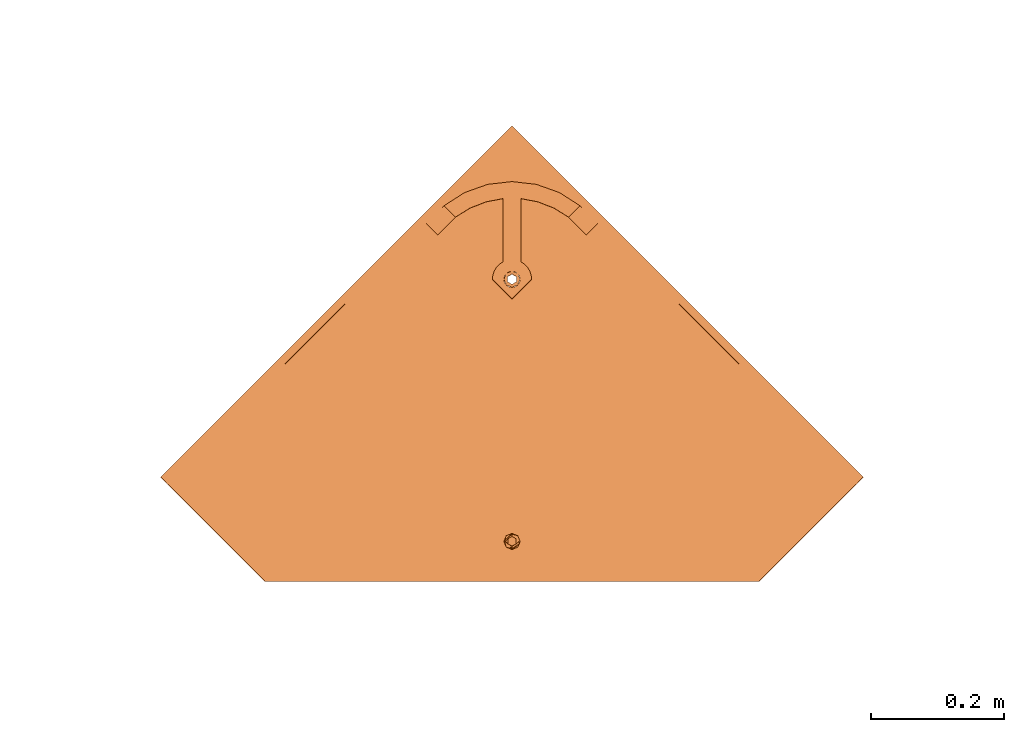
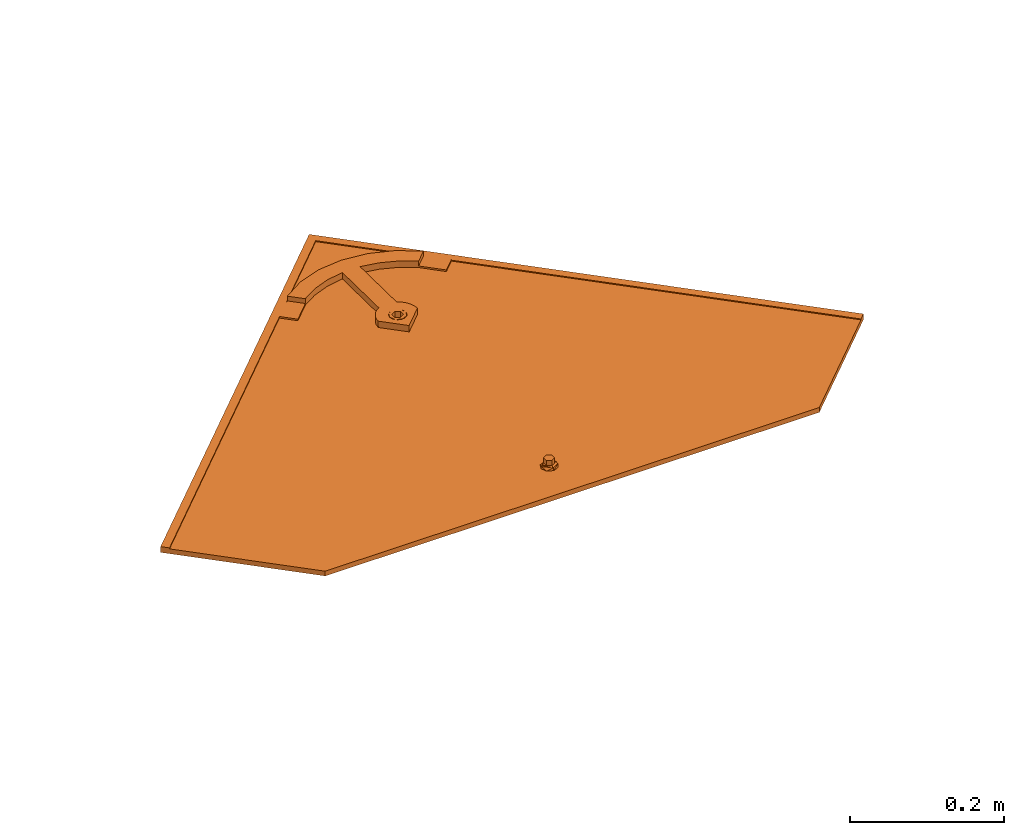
# One storey, part 98 of 151: 1 proxy.
"""IFC2X3 building model written with IfcOpenShell, lengths in millimetres."""

import ifcopenshell
import ifcopenshell.guid

model = None  # the IFC model being written
_history = None  # IfcOwnerHistory: only IFC2X3 demands one
_inside = {}  # id of a spatial element -> (the spatial element, [elements in it])
_under = {}  # id of a project, library or spatial element -> (it, [spatial elements below it])
_declared = {}  # id of a project -> (the project, [libraries it declares])
_typed = {}  # id of a type object -> (the type object, [elements of that type])
_made_of = {}  # id of a material, layer set ... -> (it, [elements and type objects made of it])


def new_model(schema):
    """Start an empty IFC model of exactly this schema.

    Asked for "IFC4X3", IfcOpenShell would pick the latest addendum, in which some entities
    have other attributes; the version numbers below select the first issue.
    IFC2X3 requires an IfcOwnerHistory on every rooted entity: one is made here for all.
    """
    global model, _history
    if schema == "IFC4X3":
        model = ifcopenshell.file(schema_version=(4, 3, 0, 0))
    else:
        model = ifcopenshell.file(schema=schema)
    _inside.clear()
    _under.clear()
    _declared.clear()
    _typed.clear()
    _made_of.clear()
    _history = None
    if model.schema == "IFC2X3":
        org = make("IfcOrganization", Name="unknown")
        user = make(
            "IfcPersonAndOrganization",
            ThePerson=make("IfcPerson", FamilyName="unknown"),
            TheOrganization=org,
        )
        app = make(
            "IfcApplication",
            ApplicationDeveloper=org,
            Version="unknown",
            ApplicationFullName="unknown",
            ApplicationIdentifier="unknown",
        )
        _history = make(
            "IfcOwnerHistory",
            OwningUser=user,
            OwningApplication=app,
            ChangeAction="ADDED",
            CreationDate=0,
        )
    return model


def make(cls, **values):
    """One entity of the class cls with the attributes given. An attribute that is None is left unset."""
    return model.create_entity(
        cls, **{name: value for name, value in values.items() if value is not None}
    )


def entity(cls, *values):
    """Any entity or typed value of the class cls, its attributes in the order of the schema. None: left unset."""
    e = model.create_entity(cls)
    for i, value in enumerate(values):
        if value is not None:
            e[i] = value
    return e


def rooted(cls, **values):
    """An entity with a GlobalId (a new one), such as an element, a storey or a relation."""
    return make(cls, GlobalId=ifcopenshell.guid.new(), OwnerHistory=_history, **values)


def si_unit(unit_type, name, prefix=None):
    """IfcSIUnit, for example si_unit("LENGTHUNIT", "METRE", prefix="MILLI")."""
    return make("IfcSIUnit", UnitType=unit_type, Prefix=prefix, Name=name)


def converted_unit(unit_type, name, factor, base, dimensions=None, offset=None):
    """IfcConversionBasedUnit, such as the inch: factor (a typed value) times the base unit."""
    return make(
        "IfcConversionBasedUnit"
        if offset is None
        else "IfcConversionBasedUnitWithOffset",
        ConversionOffset=offset,
        Dimensions=None
        if dimensions is None
        else entity("IfcDimensionalExponents", *dimensions),
        UnitType=unit_type,
        Name=name,
        ConversionFactor=make(
            "IfcMeasureWithUnit", ValueComponent=factor, UnitComponent=base
        ),
    )


def derived_unit(unit_type, elements):
    """IfcDerivedUnit: a product of units, each with its exponent."""
    return make(
        "IfcDerivedUnit",
        Elements=[
            make("IfcDerivedUnitElement", Unit=unit, Exponent=power)
            for unit, power in elements
        ],
        UnitType=unit_type,
    )


def assignment(units):
    """IfcUnitAssignment: the units of a project."""
    return None if units is None else make("IfcUnitAssignment", Units=units)


def point(xyz):
    """IfcCartesianPoint."""
    return None if xyz is None else make("IfcCartesianPoint", Coordinates=xyz)


def direction(xyz):
    """IfcDirection."""
    return None if xyz is None else make("IfcDirection", DirectionRatios=xyz)


def frame(location, z_axis=None, x_axis=None):
    """IfcAxis2Placement3D, a coordinate frame: its origin and axes. An axis left out is left unset."""
    return make(
        "IfcAxis2Placement3D",
        Location=point(location),
        Axis=direction(z_axis),
        RefDirection=direction(x_axis),
    )


def origin():
    """The frame at (0, 0, 0) with its axes left unset."""
    return frame((0.0, 0.0, 0.0))


def place(relative_to, where):
    """IfcLocalPlacement: puts the frame where relative to a parent placement (None: the world)."""
    return make(
        "IfcLocalPlacement", PlacementRelTo=relative_to, RelativePlacement=where
    )


def context(
    kind, dimensions, precision=None, world=None, true_north=None, identifier=None
):
    """IfcGeometricRepresentationContext, for example the 3D "Model" context."""
    return make(
        "IfcGeometricRepresentationContext",
        ContextIdentifier=identifier,
        ContextType=kind,
        CoordinateSpaceDimension=dimensions,
        Precision=precision,
        WorldCoordinateSystem=world,
        TrueNorth=true_north,
    )


def subcontext(parent, identifier, kind, view, scale=None):
    """IfcGeometricRepresentationSubContext, for example "Body" below "Model"."""
    return make(
        "IfcGeometricRepresentationSubContext",
        ContextIdentifier=identifier,
        ContextType=kind,
        ParentContext=parent,
        TargetScale=scale,
        TargetView=view,
    )


def project(units=None, contexts=None):
    """IfcProject with its units and contexts."""
    return rooted(
        "IfcProject",
        Name="project",
        RepresentationContexts=contexts,
        UnitsInContext=assignment(units),
    )


def spatial(cls, under=None, at=None, **own):
    """A site, building, storey or space (cls), placed at a placement, below another one or the project."""
    s = rooted(cls, ObjectPlacement=at, **own)
    if under is not None:
        _under.setdefault(under.id(), (under, []))[1].append(s)
    return s


def faces_of(points, faces, orient=None, outer=None):
    """IfcFace entities. A face is a list of loops; a loop is a list of indices into points, from 0.

    orient and outer hold one flag for each loop. By default every Orientation is true, the
    first loop of a face is its IfcFaceOuterBound and the others are IfcFaceBound.
    """
    made = []
    for i, loops in enumerate(faces):
        bounds = []
        for j, loop in enumerate(loops):
            is_outer = j == 0 if outer is None else outer[i][j]
            bounds.append(
                make(
                    "IfcFaceOuterBound" if is_outer else "IfcFaceBound",
                    Bound=make("IfcPolyLoop", Polygon=[points[k] for k in loop]),
                    Orientation=True if orient is None else orient[i][j],
                )
            )
        made.append(make("IfcFace", Bounds=bounds))
    return made


def faceted_brep(points, faces, orient=None, outer=None, voids=None):
    """IfcFacetedBrep: a solid bounded by flat faces; with voids (closed shells), ...WithVoids."""
    shared = [point(p) for p in points]
    hull = make("IfcClosedShell", CfsFaces=faces_of(shared, faces, orient, outer))
    if voids is None:
        return make("IfcFacetedBrep", Outer=hull)
    return make(
        "IfcFacetedBrepWithVoids",
        Outer=hull,
        Voids=[
            make(cls, CfsFaces=faces_of(shared, fs, o, b)) for cls, fs, o, b in voids
        ],
    )


def shape(context_of_items, identifier, shape_type, items):
    """IfcShapeRepresentation: the items that make up one representation, for example the "Body"."""
    return make(
        "IfcShapeRepresentation",
        ContextOfItems=context_of_items,
        RepresentationIdentifier=identifier,
        RepresentationType=shape_type,
        Items=items,
    )


def source(mapping_origin, context_of_items, identifier, shape_type, items):
    """IfcRepresentationMap: a shape defined once, which mapped items show again and again."""
    return make(
        "IfcRepresentationMap",
        MappingOrigin=mapping_origin,
        MappedRepresentation=shape(context_of_items, identifier, shape_type, items),
    )


def transform(
    local_origin,
    x_axis=None,
    y_axis=None,
    z_axis=None,
    scale=None,
    scale2=None,
    scale3=None,
    uniform=True,
):
    """IfcCartesianTransformationOperator3D, or its non-uniform kind. x_axis, y_axis, z_axis: its Axis1, 2, 3."""
    if uniform:
        return make(
            "IfcCartesianTransformationOperator3D",
            Axis1=direction(x_axis),
            Axis2=direction(y_axis),
            LocalOrigin=point(local_origin),
            Scale=scale,
            Axis3=direction(z_axis),
        )
    return make(
        "IfcCartesianTransformationOperator3DnonUniform",
        Axis1=direction(x_axis),
        Axis2=direction(y_axis),
        LocalOrigin=point(local_origin),
        Scale=scale,
        Axis3=direction(z_axis),
        Scale2=scale2,
        Scale3=scale3,
    )


def mapped(mapping_source, mapping_target):
    """IfcMappedItem: shows the shape of a source again, moved by a transform."""
    return make(
        "IfcMappedItem", MappingSource=mapping_source, MappingTarget=mapping_target
    )


def material(Name=None, Category=None):
    """IfcMaterial."""
    return make("IfcMaterial", Name=Name, Category=Category)


def material_list(materials):
    """IfcMaterialList."""
    return make("IfcMaterialList", Materials=materials)


def made_of(thing, what):
    """Note that an element or type object is made of a material, layer set ...; save() writes the relation."""
    if what is not None:
        _made_of.setdefault(what.id(), (what, []))[1].append(thing)
    return thing


def type_object(cls, material=None, **own):
    """A type object (cls), such as IfcWallType, which elements share."""
    return made_of(rooted(cls, **own), material)


def type_shapes(of_type, sources):
    """Give a type object the sources (RepresentationMaps) that its elements show as mapped items."""
    of_type.RepresentationMaps = sources


def element(
    cls,
    number,
    at=None,
    inside=None,
    cuts=None,
    type_object=None,
    material=None,
    context=None,
    identifier="Body",
    shape_type=None,
    held_by="IfcProductDefinitionShape",
    body=None,
    shapes=None,
    **own,
):
    """One element of the class cls, such as IfcWall. Its Tag is "e" and its number.

    at: its placement. inside: the storey or other place that contains it. cuts: it is an
    opening in that element (IfcRelVoidsElement). A single representation is given by context,
    identifier, shape_type and body (its items); several are given by shapes. held_by: the class
    of the entity that holds the representations. save() writes the other relations.
    """
    e = rooted(cls, Tag="e%d" % number, ObjectPlacement=at, **own)
    if body is not None:
        shapes = [shape(context, identifier, shape_type, body)]
    if shapes is not None:
        e.Representation = make(held_by, Representations=shapes)
    if inside is not None:
        _inside.setdefault(inside.id(), (inside, []))[1].append(e)
    if cuts is not None:
        rooted(
            "IfcRelVoidsElement", RelatingBuildingElement=cuts, RelatedOpeningElement=e
        )
    if type_object is not None:
        _typed.setdefault(type_object.id(), (type_object, []))[1].append(e)
    return made_of(e, material)


def aggregate(whole, parts):
    """IfcRelAggregates: a whole, such as a stair, and the parts it consists of."""
    return rooted("IfcRelAggregates", RelatingObject=whole, RelatedObjects=parts)


def save(model, path):
    """Write the relations noted so far, then the file.

    IfcRelAggregates (storeys below a building ...), IfcRelContainedInSpatialStructure (elements
    in a storey), IfcRelDefinesByType, IfcRelAssociatesMaterial and IfcRelDeclares: one each for
    every whole, place, type object, material and project.
    """
    for whole, parts in _under.values():
        aggregate(whole, parts)
    for where, things in _inside.values():
        rooted(
            "IfcRelContainedInSpatialStructure",
            RelatedElements=things,
            RelatingStructure=where,
        )
    for kind, things in _typed.values():
        rooted("IfcRelDefinesByType", RelatedObjects=things, RelatingType=kind)
    for what, things in _made_of.values():
        rooted("IfcRelAssociatesMaterial", RelatedObjects=things, RelatingMaterial=what)
    for by, libraries in _declared.values():
        rooted("IfcRelDeclares", RelatingContext=by, RelatedDefinitions=libraries)
    model.write(path)


model = new_model("IFC2X3")

# Units and contexts
model_context = context("Model", 3, precision=0.01, world=origin(), true_north=direction((6.12303176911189e-17, 1.0)))
body_context = subcontext(model_context, "Body", "Model", "MODEL_VIEW")
ifc_project = project(units=[si_unit("LENGTHUNIT", "METRE", prefix="MILLI"), si_unit("AREAUNIT", "SQUARE_METRE"), si_unit("VOLUMEUNIT", "CUBIC_METRE"), converted_unit("PLANEANGLEUNIT", "DEGREE", entity("IfcRatioMeasure", 0.0174532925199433), si_unit("PLANEANGLEUNIT", "RADIAN"), dimensions=[0, 0, 0, 0, 0, 0, 0]), si_unit("MASSUNIT", "GRAM", prefix="KILO"), derived_unit("MASSDENSITYUNIT", [(si_unit("MASSUNIT", "GRAM", prefix="KILO"), 1), (si_unit("LENGTHUNIT", "METRE"), -3)]), si_unit("TIMEUNIT", "SECOND"), si_unit("FREQUENCYUNIT", "HERTZ"), si_unit("THERMODYNAMICTEMPERATUREUNIT", "DEGREE_CELSIUS"), derived_unit("THERMALTRANSMITTANCEUNIT", [(si_unit("MASSUNIT", "GRAM", prefix="KILO"), 1), (si_unit("THERMODYNAMICTEMPERATUREUNIT", "KELVIN"), -1), (si_unit("TIMEUNIT", "SECOND"), -3)]), derived_unit("VOLUMETRICFLOWRATEUNIT", [(si_unit("LENGTHUNIT", "METRE"), 3), (si_unit("TIMEUNIT", "SECOND"), -1)]), si_unit("ELECTRICCURRENTUNIT", "AMPERE"), si_unit("ELECTRICVOLTAGEUNIT", "VOLT"), si_unit("POWERUNIT", "WATT"), si_unit("FORCEUNIT", "NEWTON", prefix="KILO"), si_unit("ILLUMINANCEUNIT", "LUX"), si_unit("LUMINOUSFLUXUNIT", "LUMEN"), si_unit("LUMINOUSINTENSITYUNIT", "CANDELA"), derived_unit("USERDEFINED", [(si_unit("MASSUNIT", "GRAM", prefix="KILO"), -1), (si_unit("LENGTHUNIT", "METRE"), -2), (si_unit("TIMEUNIT", "SECOND"), 3), (si_unit("LUMINOUSFLUXUNIT", "LUMEN"), 1)]), derived_unit("LINEARVELOCITYUNIT", [(si_unit("LENGTHUNIT", "METRE"), 1), (si_unit("TIMEUNIT", "SECOND"), -1)]), si_unit("PRESSUREUNIT", "PASCAL"), derived_unit("USERDEFINED", [(si_unit("LENGTHUNIT", "METRE"), -2), (si_unit("MASSUNIT", "GRAM", prefix="KILO"), 1), (si_unit("TIMEUNIT", "SECOND"), -2)])], contexts=[model_context])

# Site, building, storey
site_placement = place(None, origin())
site = spatial("IfcSite", under=ifc_project, at=site_placement, Name="Default", CompositionType="ELEMENT")
building_placement = place(site_placement, origin())
building = spatial("IfcBuilding", under=site, at=building_placement, CompositionType="ELEMENT")
storey_placement = place(building_placement, origin())
storey = spatial("IfcBuildingStorey", under=building, at=storey_placement, Name="Level 1", CompositionType="ELEMENT", Elevation=0.0)

# Proxy
ifc_material_1 = material(Name="Rubber - Sunstyle - Black")
ifc_material_2 = material(Name="Glass - Sunstyle - Tainted Black")
ifc_material_list_1 = material_list([ifc_material_1, ifc_material_2])
ifc_material_list_2 = material_list([ifc_material_1, ifc_material_2])
building_element_proxy_type = type_object("IfcBuildingElementProxyType", Name="Shingle Bottom - Black", PredefinedType="NOTDEFINED", material=ifc_material_list_2)
shared_shape = source(origin(), body_context, "Body", "Brep", [
    faceted_brep([(0.0, -1.79273515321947, -4.01619789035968), (-5.7742028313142, -5.12600528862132, -3.96037390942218), (-5.77420283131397, -4.75769619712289, 18.0314954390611), (0.0, -1.42442606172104, 17.9756714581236), (-5.77420283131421, -11.792545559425, -3.84872594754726), (-5.77420283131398, -11.4242364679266, 18.143143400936), (0.0, -15.1258156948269, -3.79290196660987), (0.0, -14.7575066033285, 18.1989673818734), (5.77420283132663, -11.7925455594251, -3.84872594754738), (5.77420283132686, -11.4242364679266, 18.1431434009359), (5.77420283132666, -5.12600528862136, -3.96037390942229), (5.77420283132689, -4.75769619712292, 18.031495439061), (-8.60370416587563, -16.6934641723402, 18.2313898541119), (0.0, -20.2567354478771, 18.2910657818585), (-12.1674751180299, -8.09096633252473, 18.0873194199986), (-8.60370416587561, 0.511531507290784, 17.9432489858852), (0.0, 4.07480278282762, 17.8835730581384), (8.60370416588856, 0.511531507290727, 17.9432489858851), (12.1674751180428, -8.09096633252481, 18.0873194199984), (8.60370416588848, -16.6934641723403, 18.2313898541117), (-11.4302228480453, -6.71737066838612, 20.4858706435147), (-9.77051349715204, -8.02009729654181, 22.3189355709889), (0.0, -0.706876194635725, 22.9603444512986), (0.0, 0.533621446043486, 22.3799978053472), (0.0, 2.69117229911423, 21.3706227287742), (-6.32324569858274, -4.35709193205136, 23.021476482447), (-6.32324569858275, -11.6575234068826, 23.1437405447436), (0.0, -18.7571148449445, 21.7298281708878), (0.0, -15.3077391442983, 23.2048725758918), (10.9851748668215, -11.808022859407, 20.3827540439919), (10.123850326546, -8.02413622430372, 22.0777687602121), (6.32324569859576, -4.3570919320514, 23.0214764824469), (6.32324569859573, -11.6575234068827, 23.1437405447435), (-6.32324569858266, -11.5234949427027, 31.146628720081), (0.0, -15.1737106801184, 31.2077607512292), (0.0, -7.8732792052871, 31.0854966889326), (-6.32324569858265, -4.22306346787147, 31.0243646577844), (6.32324569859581, -11.5234949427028, 31.1466287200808), (6.32324569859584, -4.22306346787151, 31.0243646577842), (0.0, -0.57284773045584, 30.963232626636), (0.0, -8.45927542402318, -3.90454992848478)], [[[0, 1, 2, 3]], [[1, 4, 5, 2]], [[4, 6, 7, 5]], [[6, 8, 9, 7]], [[8, 10, 11, 9]], [[10, 0, 3, 11]], [[12, 7, 13]], [[7, 12, 5]], [[14, 5, 12]], [[5, 14, 2]], [[15, 2, 14]], [[3, 2, 15]], [[15, 16, 3]], [[16, 17, 3]], [[11, 3, 17]], [[11, 17, 18]], [[9, 11, 18]], [[18, 19, 9]], [[7, 9, 19]], [[19, 13, 7]], [[15, 20, 16]], [[21, 22, 23, 24]], [[22, 21, 25]], [[20, 14, 12]], [[15, 14, 20]], [[25, 21, 26]], [[20, 24, 16]], [[12, 13, 27]], [[12, 27, 20]], [[21, 28, 26]], [[21, 27, 28]], [[20, 21, 24]], [[20, 27, 21]], [[19, 29, 13]], [[30, 23, 31]], [[30, 28, 27]], [[24, 23, 30]], [[29, 27, 13]], [[19, 18, 29]], [[29, 30, 27]], [[29, 17, 24]], [[24, 17, 16]], [[31, 32, 30]], [[23, 22, 31]], [[28, 30, 32]], [[29, 24, 30]], [[29, 18, 17]], [[33, 34, 35]], [[35, 36, 33]], [[34, 37, 35]], [[38, 35, 37]], [[35, 38, 39]], [[35, 39, 36]], [[40, 6, 4]], [[4, 1, 40]], [[1, 0, 40]], [[40, 8, 6]], [[0, 10, 40]], [[8, 40, 10]], [[22, 25, 36, 39]], [[25, 26, 33, 36]], [[26, 28, 34, 33]], [[28, 32, 37, 34]], [[32, 31, 38, 37]], [[31, 22, 39, 38]]]),
    faceted_brep([(0.0, 372.824876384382, 20.3195200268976), (0.0, 377.324245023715, 20.2441667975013), (-8.60370416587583, 376.388147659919, 20.2598440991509), (8.60370416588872, 376.388147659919, 20.2598440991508), (6.64022859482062, 381.157445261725, 20.1799702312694), (12.1674751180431, 384.990645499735, 20.1157736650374), (6.64022859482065, 388.823845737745, 20.0515770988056), (8.6037041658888, 393.59314333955, 19.9717032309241), (0.0, 392.657045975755, 19.9873805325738), (0.0, 397.156414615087, 19.9120273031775), (-8.60370416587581, 393.59314333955, 19.9717032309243), (-6.64022859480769, 388.823845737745, 20.0515770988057), (-12.1674751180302, 384.990645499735, 20.1157736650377), (-6.6402285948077, 381.157445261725, 20.1799702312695), (-6.6402282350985, 388.555922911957, 4.05382046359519), (0.0, 392.389122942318, 3.98962390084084), (-6.64022823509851, 380.889522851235, 4.18221358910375), (0.0, 377.056322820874, 4.24641015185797), (6.64022823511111, 380.889522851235, 4.18221358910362), (6.64022823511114, 388.555922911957, 4.05382046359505), (-8.603704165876, 376.12022504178, 4.26208746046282), (0.0, 372.556953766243, 4.32176338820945), (-12.1674751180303, 384.722722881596, 4.11801702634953), (-8.60370416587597, 393.325220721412, 3.97394659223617), (0.0, 396.888491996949, 3.91427066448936), (8.60370416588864, 393.325220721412, 3.97394659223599), (12.1674751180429, 384.722722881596, 4.11801702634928), (8.60370416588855, 376.12022504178, 4.26208746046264)], [[[0, 1, 2]], [[1, 0, 3]], [[3, 4, 1]], [[4, 3, 5]], [[6, 4, 5]], [[5, 7, 6]], [[7, 8, 6]], [[8, 7, 9]], [[8, 9, 10]], [[10, 11, 8]], [[12, 11, 10]], [[2, 13, 12]], [[12, 13, 11]], [[13, 2, 1]], [[8, 11, 14, 15]], [[11, 13, 16, 14]], [[13, 1, 17, 16]], [[1, 4, 18, 17]], [[4, 6, 19, 18]], [[6, 8, 15, 19]], [[20, 17, 21]], [[17, 20, 16]], [[22, 16, 20]], [[14, 16, 22]], [[23, 14, 22]], [[15, 14, 23]], [[23, 24, 15]], [[24, 25, 15]], [[19, 15, 25]], [[19, 25, 26]], [[26, 18, 19]], [[26, 27, 18]], [[17, 18, 27]], [[27, 21, 17]], [[24, 23, 10, 9]], [[10, 23, 22, 12]], [[20, 21, 0, 2]], [[20, 2, 12, 22]], [[21, 27, 3, 0]], [[3, 27, 26, 5]], [[25, 24, 9, 7]], [[25, 7, 5, 26]]]),
    faceted_brep([(518.247351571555, 79.9143812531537, 14.965257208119), (526.732038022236, 88.3990677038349, 14.8231598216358), (526.732038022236, 88.4241854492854, 16.3229495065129), (518.247351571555, 79.9394989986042, 16.4650468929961), (0.000322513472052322, 598.016093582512, 6.28834266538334), (-518.246706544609, 79.9143812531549, 14.9652572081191), (-526.73139299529, 88.3990677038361, 14.8231598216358), (0.000322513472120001, 614.983087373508, 6.00418773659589), (0.000322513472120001, 615.008205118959, 7.50397742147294), (-526.731392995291, 88.4241854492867, 16.3229495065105), (-518.246706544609, 79.9394989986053, 16.465046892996), (0.000322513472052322, 598.041211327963, 7.78813235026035)], [[[0, 1, 2, 3]], [[1, 0, 4, 5, 6, 7]], [[2, 1, 7, 8]], [[3, 2, 8, 9, 10, 11]], [[0, 3, 11, 4]], [[5, 10, 9, 6]], [[8, 7, 6, 9]], [[4, 11, 10, 5]]]),
    faceted_brep([(0.00032251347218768, 614.983087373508, 6.00418773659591), (-2.87802047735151, 396.187349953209, 9.66847193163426), (0.227808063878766, 396.596182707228, 9.6616250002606), (-5.77219193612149, 394.988712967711, 9.68854611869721), (3.3336366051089, 396.187349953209, 9.66847193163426), (6.22780806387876, 394.988712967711, 9.6885461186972), (8.71308943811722, 393.081956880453, 9.72047953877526), (10.620112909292, 390.59702396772, 9.76209598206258), (-8.25747331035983, 393.081956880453, 9.72047953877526), (-10.1644967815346, 390.59702396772, 9.76209598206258), (-11.3633018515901, 387.703258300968, 9.81055935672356), (-526.731392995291, 88.3990677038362, 14.8231598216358), (11.8189179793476, 387.703258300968, 9.81055935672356), (526.732038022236, 88.3990677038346, 14.8231598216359), (-11.7721919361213, 384.597865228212, 9.86256696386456), (-11.3633018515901, 381.492472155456, 9.91457457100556), (-10.1644967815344, 378.598706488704, 9.96303794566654), (-370.355016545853, -67.9334607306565, 17.4413406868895), (-8.25747331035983, 376.113773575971, 10.0046543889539), (-5.65685424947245, -2.29422365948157, 16.3420467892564), (-6.92820323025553, -3.95084560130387, 16.3697910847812), (-7.72740661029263, -5.88002271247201, 16.4021000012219), (-8.0, -7.95028476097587, 16.4367717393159), (-7.72740661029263, -10.0205468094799, 16.4714434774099), (-6.9282032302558, -11.9497239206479, 16.5037523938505), (-5.65685424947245, -13.6063458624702, 16.5314966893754), (-4.0, -14.8775165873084, 16.5527856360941), (-2.07055236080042, -15.676607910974, 16.5661684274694), (0.0, -15.9491630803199, 16.5707330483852), (370.355661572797, -67.9334607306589, 17.4413406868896), (10.620112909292, 378.598706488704, 9.96303794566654), (8.71308943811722, 376.11377357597, 10.0046543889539), (5.65685424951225, -2.29422365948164, 16.3420467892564), (6.92820323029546, -3.9508456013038, 16.3697910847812), (7.72740661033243, -5.88002271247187, 16.4021000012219), (8.0, -7.9502847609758, 16.4367717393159), (7.72740661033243, -10.0205468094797, 16.4714434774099), (6.92820323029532, -11.9497239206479, 16.5037523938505), (5.65685424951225, -13.6063458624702, 16.5314966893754), (4.0, -14.8775165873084, 16.5527856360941), (2.07055236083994, -15.676607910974, 16.5661684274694), (-5.77219193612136, 374.207017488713, 10.0365878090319), (-4.0, -1.02305293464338, 16.3207578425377), (-2.87802047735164, 373.008380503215, 10.0566619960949), (-2.07055236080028, -0.223961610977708, 16.3073750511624), (0.227808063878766, 372.599547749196, 10.0635089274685), (0.0, 0.0485935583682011, 16.3028104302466), (2.07055236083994, -0.223961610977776, 16.3073750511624), (3.3336366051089, 373.008380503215, 10.0566619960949), (4.0, -1.02305293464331, 16.3207578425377), (6.22780806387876, 374.207017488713, 10.0365878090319), (12.2278080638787, 384.597865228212, 9.86256696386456), (11.8189179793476, 381.492472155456, 9.91457457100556), (-370.355016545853, -68.059049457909, 9.94239226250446), (-6.92820323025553, -4.07643432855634, 8.87084266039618), (-7.72740661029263, -6.00561143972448, 8.90315157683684), (-8.0, -8.07587348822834, 8.93782331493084), (-7.72740661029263, -10.1461355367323, 8.97249505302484), (-6.9282032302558, -12.0753126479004, 9.00480396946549), (-5.65685424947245, -13.7319345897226, 9.03254826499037), (-5.65685424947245, -2.41981238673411, 8.8430983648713), (-8.25747331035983, 375.988184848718, 2.50570596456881), (-4.0, -15.0031053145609, 9.05383721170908), (-2.07055236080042, -15.8021966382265, 9.06722000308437), (0.0, -16.0747518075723, 9.07178462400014), (370.355661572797, -68.0590494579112, 9.9423922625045), (-10.1644967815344, 378.473117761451, 2.46408952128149), (-526.731392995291, 88.2734789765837, 7.32421139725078), (-11.3633018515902, 381.366883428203, 2.41562614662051), (-11.7721919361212, 384.472276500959, 2.36361853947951), (-11.3633018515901, 387.577669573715, 2.3116109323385), (0.00032251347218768, 614.857498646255, -1.49476068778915), (-10.1644967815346, 390.471435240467, 2.26314755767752), (-8.25747331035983, 392.956368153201, 2.22153111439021), (-5.77219193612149, 394.863124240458, 2.18959769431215), (-2.87802047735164, 396.061761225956, 2.16952350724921), (0.227808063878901, 396.470593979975, 2.16267657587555), (3.3336366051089, 396.061761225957, 2.1695235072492), (6.22780806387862, 394.863124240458, 2.18959769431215), (8.71308943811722, 392.956368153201, 2.2215311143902), (10.620112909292, 390.471435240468, 2.26314755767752), (11.8189179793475, 387.577669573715, 2.31161093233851), (526.732038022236, 88.2734789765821, 7.32421139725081), (12.2278080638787, 384.472276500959, 2.3636185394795), (10.620112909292, 378.473117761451, 2.46408952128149), (11.8189179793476, 381.366883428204, 2.41562614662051), (-5.77219193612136, 374.08142876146, 2.53763938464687), (-4.0, -1.14864166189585, 8.8218094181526), (-2.87802047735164, 372.882791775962, 2.55771357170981), (-2.07055236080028, -0.349550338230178, 8.8084266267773), (0.227808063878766, 372.473959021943, 2.56456050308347), (0.0, -0.0769951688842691, 8.80386200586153), (2.07055236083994, -0.349550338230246, 8.8084266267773), (3.3336366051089, 372.882791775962, 2.55771357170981), (4.0, -1.14864166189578, 8.8218094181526), (6.22780806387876, 374.081428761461, 2.53763938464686), (5.65685424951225, -2.41981238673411, 8.8430983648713), (8.71308943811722, 375.988184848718, 2.50570596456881), (6.92820323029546, -4.07643432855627, 8.87084266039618), (7.72740661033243, -6.00561143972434, 8.90315157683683), (8.0, -8.07587348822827, 8.93782331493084), (7.72740661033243, -10.1461355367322, 8.97249505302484), (6.92820323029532, -12.0753126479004, 9.00480396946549), (5.65685424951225, -13.7319345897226, 9.03254826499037), (4.0, -15.0031053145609, 9.05383721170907), (2.07055236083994, -15.8021966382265, 9.06722000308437)], [[[0, 1, 2]], [[1, 0, 3]], [[0, 2, 4]], [[4, 5, 0]], [[5, 6, 0]], [[0, 6, 7]], [[8, 3, 0]], [[9, 8, 0]], [[9, 0, 10]], [[10, 0, 11]], [[12, 0, 7]], [[12, 13, 0]], [[11, 14, 10]], [[14, 11, 15]], [[16, 15, 11]], [[11, 17, 16]], [[16, 17, 18]], [[19, 18, 17]], [[19, 17, 20]], [[20, 17, 21]], [[22, 21, 17]], [[22, 17, 23]], [[24, 23, 17]], [[17, 25, 24]], [[26, 25, 17]], [[27, 26, 17]], [[17, 28, 27]], [[28, 17, 29]], [[29, 13, 30]], [[29, 30, 31]], [[29, 31, 32]], [[32, 33, 29]], [[33, 34, 29]], [[35, 29, 34]], [[29, 35, 36]], [[36, 37, 29]], [[29, 37, 38]], [[38, 39, 29]], [[40, 28, 29]], [[39, 40, 29]], [[41, 18, 19]], [[42, 41, 19]], [[42, 43, 41]], [[44, 43, 42]], [[44, 45, 43]], [[46, 45, 44]], [[47, 45, 46]], [[48, 45, 47]], [[49, 48, 47]], [[49, 50, 48]], [[32, 50, 49]], [[32, 31, 50]], [[12, 51, 13]], [[52, 13, 51]], [[13, 52, 30]], [[53, 54, 55]], [[53, 55, 56]], [[56, 57, 53]], [[57, 58, 53]], [[53, 58, 59]], [[60, 54, 53]], [[61, 60, 53]], [[59, 62, 53]], [[62, 63, 53]], [[63, 64, 53]], [[53, 64, 65]], [[66, 61, 53]], [[66, 53, 67]], [[68, 66, 67]], [[69, 68, 67]], [[69, 67, 70]], [[67, 71, 70]], [[72, 70, 71]], [[73, 72, 71]], [[71, 74, 73]], [[74, 71, 75]], [[75, 71, 76]], [[77, 76, 71]], [[77, 71, 78]], [[79, 78, 71]], [[71, 80, 79]], [[80, 71, 81]], [[71, 82, 81]], [[83, 81, 82]], [[84, 82, 65]], [[85, 82, 84]], [[82, 85, 83]], [[86, 60, 61]], [[86, 87, 60]], [[88, 87, 86]], [[89, 87, 88]], [[90, 89, 88]], [[90, 91, 89]], [[92, 91, 90]], [[92, 90, 93]], [[94, 92, 93]], [[93, 95, 94]], [[94, 95, 96]], [[97, 96, 95]], [[96, 97, 65]], [[84, 65, 97]], [[98, 96, 65]], [[99, 98, 65]], [[99, 65, 100]], [[101, 100, 65]], [[102, 101, 65]], [[103, 102, 65]], [[104, 103, 65]], [[105, 104, 65]], [[65, 64, 105]], [[11, 0, 71, 67]], [[17, 11, 67, 53]], [[13, 29, 65, 82]], [[0, 13, 82, 71]], [[22, 56, 55, 21]], [[21, 55, 54, 20]], [[42, 19, 60, 87]], [[60, 19, 20, 54]], [[44, 42, 87, 89]], [[44, 89, 91, 46]], [[46, 91, 92, 47]], [[47, 92, 94, 49]], [[33, 32, 96, 98]], [[96, 32, 49, 94]], [[34, 33, 98, 99]], [[34, 99, 100, 35]], [[35, 100, 101, 36]], [[36, 101, 102, 37]], [[39, 38, 103, 104]], [[103, 38, 37, 102]], [[40, 39, 104, 105]], [[40, 105, 64, 28]], [[28, 64, 63, 27]], [[27, 63, 62, 26]], [[24, 25, 59, 58]], [[59, 25, 26, 62]], [[23, 24, 58, 57]], [[23, 57, 56, 22]], [[14, 69, 70, 10]], [[10, 70, 72, 9]], [[3, 8, 73, 74]], [[73, 8, 9, 72]], [[1, 3, 74, 75]], [[1, 75, 76, 2]], [[2, 76, 77, 4]], [[4, 77, 78, 5]], [[7, 6, 79, 80]], [[79, 6, 5, 78]], [[12, 7, 80, 81]], [[12, 81, 83, 51]], [[51, 83, 85, 52]], [[52, 85, 84, 30]], [[50, 31, 97, 95]], [[97, 31, 30, 84]], [[48, 50, 95, 93]], [[48, 93, 90, 45]], [[45, 90, 88, 43]], [[43, 88, 86, 41]], [[16, 18, 61, 66]], [[41, 86, 61, 18]], [[68, 15, 16, 66]], [[15, 68, 69, 14]], [[29, 17, 53, 65]]]),
    faceted_brep([(-111.269043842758, 451.472531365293, 11.2429332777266), (-84.9443960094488, 477.793488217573, 10.8021227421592), (-102.027571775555, 494.874268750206, 10.5160621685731), (-108.279973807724, 489.512620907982, 10.6058564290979), (-114.2509690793, 483.839345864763, 10.7008696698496), (-128.946713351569, 469.147722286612, 10.9469178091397), (128.946713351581, 469.147722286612, 10.9469178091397), (114.250969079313, 483.839345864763, 10.7008696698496), (108.279973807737, 489.512620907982, 10.6058564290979), (102.027571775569, 494.874268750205, 10.5160621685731), (84.9431983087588, 477.794685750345, 10.802102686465), (111.269043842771, 451.472531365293, 11.2429332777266), (-8.48528137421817, 393.302959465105, 19.7181805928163), (-18.7041061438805, 407.484939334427, 19.4806677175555), (-23.2046504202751, 402.851933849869, 19.5582590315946), (-10.3923048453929, 390.818026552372, 19.7597970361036), (-6.0, 395.209715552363, 19.6862471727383), (-13.2999999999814, 411.02298750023, 19.4214142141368), (-3.10582854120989, 396.408352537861, 19.6661729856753), (0.0, 396.81718529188, 19.6593260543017), (13.3000000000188, 411.022987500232, 19.4214142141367), (3.10582854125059, 396.408352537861, 19.6661729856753), (6.0, 395.209715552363, 19.6862471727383), (18.7041061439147, 407.484939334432, 19.4806677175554), (8.48528137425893, 393.302959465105, 19.7181805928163), (23.2046504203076, 402.85193384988, 19.5582590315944), (10.3923048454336, 390.818026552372, 19.7597970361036), (26.5842195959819, 397.347783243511, 19.6504398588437), (11.5911099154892, 387.92426088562, 19.8082604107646), (28.6795527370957, 391.238383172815, 19.752757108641), (12.0, 384.818867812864, 19.8602680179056), (29.3894280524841, 384.818867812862, 19.8602680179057), (11.5911099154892, 381.713474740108, 19.9122756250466), (10.3923048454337, 378.819709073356, 19.9607389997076), (8.48528137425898, 376.334776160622, 20.0023554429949), (0.0, 355.433560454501, 20.3523987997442), (6.0, 374.428020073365, 20.034288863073), (3.10582854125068, 373.229383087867, 20.0543630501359), (0.0, 372.820550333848, 20.0612099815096), (-3.10582854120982, 373.229383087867, 20.0543630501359), (-6.0, 374.428020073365, 20.034288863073), (-8.48528137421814, 376.334776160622, 20.0023554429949), (-29.3894280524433, 384.818867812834, 19.8602680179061), (-10.3923048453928, 378.819709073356, 19.9607389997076), (-11.5911099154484, 381.713474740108, 19.9122756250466), (-12.0, 384.818867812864, 19.8602680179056), (-28.67955273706, 391.238383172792, 19.7527571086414), (-11.5911099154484, 387.92426088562, 19.8082604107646), (-26.5842195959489, 397.347783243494, 19.650439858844), (-13.2999999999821, 505.810987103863, 17.833951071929), (13.3000000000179, 505.810987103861, 17.833951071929), (0.0, 531.282600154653, 17.4073649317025), (36.4908407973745, 527.108634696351, 17.4772684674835), (38.7697427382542, 500.996106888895, 17.9145883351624), (71.096085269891, 514.802420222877, 17.6833669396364), (62.9243331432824, 491.592473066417, 18.0720758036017), (102.027571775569, 494.999857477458, 18.0150105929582), (84.9443960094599, 477.919076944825, 18.3010711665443), (-36.4908407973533, 527.108634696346, 17.4772684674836), (-38.7697427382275, 500.996106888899, 17.9145883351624), (-71.0960852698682, 514.802420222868, 17.6833669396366), (-62.9243331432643, 491.592473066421, 18.0720758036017), (-102.027571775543, 494.999857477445, 18.0150105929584), (-84.9443960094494, 477.919076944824, 18.3010711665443), (0.0, 355.266108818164, 10.3538009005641), (0.0, 372.653098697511, 10.0626120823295), (3.10582854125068, 373.06193145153, 10.0557651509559), (-3.10582854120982, 373.06193145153, 10.0557651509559), (6.0, 374.260568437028, 10.0356909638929), (8.48528137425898, 376.167324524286, 10.0037575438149), (29.3894280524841, 384.651416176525, 9.86167011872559), (-6.0, 374.260568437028, 10.0356909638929), (-8.48528137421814, 376.167324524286, 10.0037575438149), (-29.3894280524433, 384.651416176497, 9.86167011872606), (-10.3923048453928, 378.652257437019, 9.96214110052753), (-11.5911099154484, 381.546023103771, 9.91367772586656), (-12.0, 384.651416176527, 9.86167011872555), (-28.67955273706, 391.070931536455, 9.75415920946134), (-11.5911099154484, 387.756809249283, 9.80966251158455), (-26.5842195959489, 397.180331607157, 9.65184195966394), (-10.3923048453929, 390.650574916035, 9.76119913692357), (-23.2046504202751, 402.684482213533, 9.5596611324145), (-8.48528137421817, 393.135507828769, 9.71958269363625), (-18.7041061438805, 407.31748769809, 9.48206981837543), (-6.0, 395.042263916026, 9.6876492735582), (-13.2999999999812, 410.855535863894, 9.4228163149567), (-3.10582854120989, 396.240900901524, 9.66757508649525), (0.0, 396.649733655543, 9.66072815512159), (13.3000000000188, 410.855535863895, 9.42281631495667), (-13.2999999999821, 505.643535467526, 7.83535317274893), (13.3000000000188, 505.643535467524, 7.83535317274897), (0.0, 531.115148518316, 7.4087670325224), (-36.4908407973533, 526.94118306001, 7.47867056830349), (-38.7697427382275, 500.828655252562, 7.91599043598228), (-71.0960852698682, 514.634968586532, 7.68476904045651), (-62.9243331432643, 491.425021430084, 8.07347790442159), (-102.027571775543, 494.832405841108, 8.01641269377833), (-84.9431983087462, 477.752822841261, 8.30245321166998), (-108.279973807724, 489.470757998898, 8.10620695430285), (-114.2509690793, 483.79748295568, 8.2012201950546), (-111.269043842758, 451.430668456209, 8.74328380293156), (-128.946713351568, 469.105859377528, 8.44726833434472), (36.4908407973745, 526.941183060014, 7.47867056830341), (38.7697427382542, 500.828655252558, 7.91599043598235), (71.096085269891, 514.634968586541, 7.68476904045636), (62.9243331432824, 491.425021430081, 8.07347790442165), (102.027571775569, 494.832405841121, 8.01641269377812), (84.9443960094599, 477.751625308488, 8.30247326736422), (108.279973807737, 489.470757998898, 8.10620695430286), (114.250969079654, 483.797482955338, 8.20122019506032), (111.269043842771, 451.430668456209, 8.74328380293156), (128.946713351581, 469.105859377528, 8.44726833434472), (3.10582854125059, 396.240900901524, 9.66757508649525), (6.0, 395.042263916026, 9.6876492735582), (18.7041061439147, 407.317487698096, 9.48206981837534), (8.48528137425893, 393.135507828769, 9.71958269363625), (23.2046504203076, 402.684482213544, 9.55966113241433), (10.3923048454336, 390.650574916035, 9.76119913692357), (26.5842195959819, 397.180331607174, 9.65184195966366), (11.5911099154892, 387.756809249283, 9.80966251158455), (28.6795527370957, 391.070931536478, 9.75415920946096), (12.0, 384.651416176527, 9.86167011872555), (11.5911099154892, 381.546023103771, 9.91367772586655), (10.3923048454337, 378.652257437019, 9.96214110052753)], [[[0, 1, 2, 3, 4, 5]], [[6, 7, 8, 9, 10, 11]], [[12, 13, 14]], [[15, 12, 14]], [[16, 13, 12]], [[13, 16, 17]], [[17, 16, 18]], [[18, 19, 17]], [[20, 17, 19]], [[19, 21, 20]], [[22, 20, 21]], [[22, 23, 20]], [[22, 24, 23]], [[25, 23, 24]], [[26, 25, 24]], [[25, 26, 27]], [[26, 28, 27]], [[29, 27, 28]], [[28, 30, 29]], [[31, 29, 30]], [[30, 32, 31]], [[32, 33, 31]], [[31, 33, 34]], [[34, 35, 31]], [[34, 36, 35]], [[37, 35, 36]], [[38, 35, 37]], [[35, 38, 39]], [[40, 35, 39]], [[40, 41, 35]], [[42, 35, 41]], [[43, 42, 41]], [[43, 44, 42]], [[44, 45, 42]], [[45, 46, 42]], [[46, 45, 47]], [[48, 46, 47]], [[47, 15, 48]], [[48, 15, 14]], [[20, 49, 17]], [[49, 20, 50]], [[51, 49, 50]], [[50, 52, 51]], [[53, 52, 50]], [[52, 53, 54]], [[55, 54, 53]], [[54, 55, 56]], [[55, 57, 56]], [[58, 49, 51]], [[49, 58, 59]], [[60, 59, 58]], [[60, 61, 59]], [[61, 60, 62]], [[61, 62, 63]], [[64, 65, 66]], [[65, 64, 67]], [[64, 66, 68]], [[68, 69, 64]], [[64, 69, 70]], [[71, 67, 64]], [[71, 64, 72]], [[72, 64, 73]], [[73, 74, 72]], [[74, 73, 75]], [[76, 75, 73]], [[77, 76, 73]], [[76, 77, 78]], [[78, 77, 79]], [[80, 78, 79]], [[81, 80, 79]], [[82, 80, 81]], [[81, 83, 82]], [[83, 84, 82]], [[84, 83, 85]], [[85, 86, 84]], [[87, 86, 85]], [[87, 85, 88]], [[88, 85, 89]], [[88, 89, 90]], [[89, 91, 90]], [[91, 89, 92]], [[93, 92, 89]], [[94, 92, 93]], [[93, 95, 94]], [[95, 96, 94]], [[97, 96, 95]], [[98, 96, 97]], [[99, 98, 97]], [[97, 100, 99]], [[101, 99, 100]], [[102, 90, 91]], [[90, 102, 103]], [[104, 103, 102]], [[103, 104, 105]], [[105, 104, 106]], [[107, 105, 106]], [[107, 106, 108]], [[109, 107, 108]], [[110, 107, 109]], [[111, 110, 109]], [[87, 88, 112]], [[113, 112, 88]], [[114, 113, 88]], [[115, 113, 114]], [[115, 114, 116]], [[116, 117, 115]], [[116, 118, 117]], [[117, 118, 119]], [[119, 118, 120]], [[121, 119, 120]], [[120, 70, 121]], [[122, 121, 70]], [[70, 69, 123]], [[123, 122, 70]], [[17, 49, 89, 85]], [[13, 17, 85, 83]], [[14, 13, 83, 81]], [[81, 79, 48, 14]], [[46, 48, 79, 77]], [[42, 46, 77, 73]], [[35, 42, 73, 64]], [[31, 35, 64, 70]], [[29, 31, 70, 120]], [[27, 29, 120, 118]], [[118, 116, 25, 27]], [[23, 25, 116, 114]], [[20, 23, 114, 88]], [[50, 20, 88, 90]], [[9, 106, 104, 54, 56]], [[52, 54, 104, 102]], [[51, 52, 102, 91]], [[58, 51, 91, 92]], [[94, 96, 2, 62, 60]], [[60, 58, 92, 94]], [[45, 76, 78, 47]], [[47, 78, 80, 15]], [[16, 12, 82, 84]], [[80, 82, 12, 15]], [[18, 16, 84, 86]], [[87, 19, 18, 86]], [[21, 112, 113, 22]], [[22, 113, 115, 24]], [[28, 26, 117, 119]], [[115, 117, 26, 24]], [[30, 28, 119, 121]], [[21, 19, 87, 112]], [[30, 121, 122, 32]], [[32, 122, 123, 33]], [[36, 34, 69, 68]], [[123, 69, 34, 33]], [[37, 36, 68, 66]], [[65, 38, 37, 66]], [[39, 67, 71, 40]], [[40, 71, 72, 41]], [[44, 43, 74, 75]], [[72, 74, 43, 41]], [[45, 44, 75, 76]], [[39, 38, 65, 67]], [[7, 6, 111, 109]], [[6, 11, 110, 111]], [[7, 109, 108, 8]], [[108, 106, 9, 8]], [[11, 10, 107, 110]], [[0, 5, 101, 100]], [[1, 0, 100, 97]], [[2, 96, 98, 3]], [[98, 99, 4, 3]], [[5, 4, 99, 101]], [[63, 62, 2, 1]], [[56, 57, 10]], [[10, 9, 56]], [[1, 95, 61, 63]], [[1, 97, 95]], [[93, 89, 49, 59]], [[95, 93, 59, 61]], [[90, 103, 53, 50]], [[103, 105, 55, 53]], [[10, 57, 55]], [[107, 10, 105]], [[55, 105, 10]]]),
])
type_shapes(building_element_proxy_type, [shared_shape])
proxy_placement = place(storey_placement, frame((3972.67937056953, 12373.1387530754, 0.0)))
element("IfcBuildingElementProxy", 1, at=proxy_placement, inside=storey, type_object=building_element_proxy_type, material=ifc_material_list_1, Name="Roofing_Panels_SunStyle_Tile_Shingle-Bottom:Shingle Bottom - Black", ObjectType="Roofing_Panels_SunStyle_Tile_Shingle-Bottom:Shingle Bottom - Black", context=body_context, shape_type="MappedRepresentation", body=[
    mapped(shared_shape, transform((0.0, 0.0, 0.0), scale=1.0)),
])

save(model, "model.ifc")
